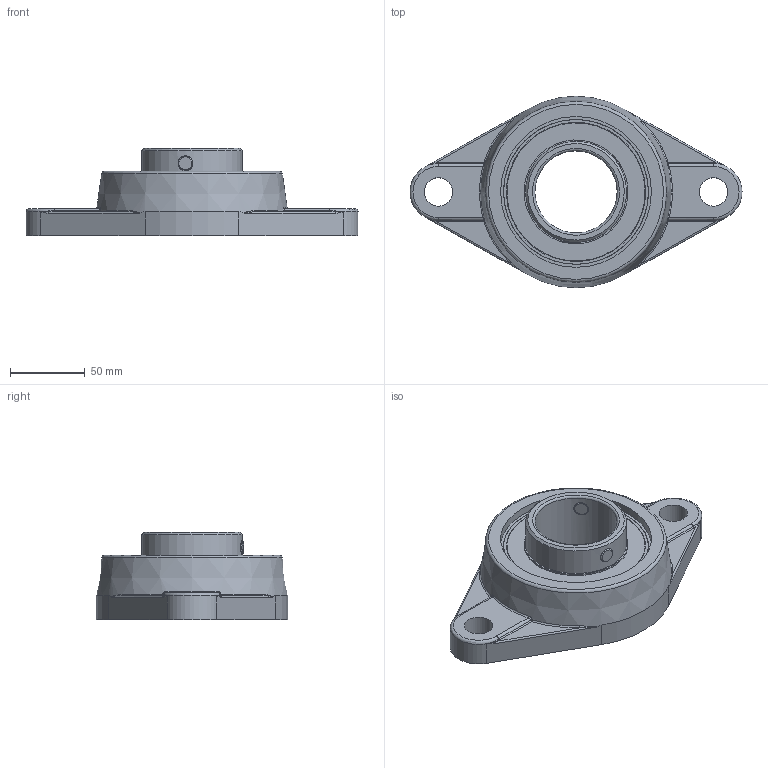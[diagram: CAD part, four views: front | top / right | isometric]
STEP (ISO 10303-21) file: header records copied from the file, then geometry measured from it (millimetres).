
FILE_DESCRIPTION(/* description */ (''),/* implementation_level */ '2;1');
FILE_NAME(/* name */ 'C:\MOJE SUBORY\03_Doplnenie 3D modelov\fmc\FMC211.stp',/* time_stamp */ '2020-12-15T08:58:02+01:00',/* author */ ('OUPIONTEKM'),/* organization */ (''),/* preprocessor_version */ 'ST-DEVELOPER v18.1',/* originating_system */ 'Autodesk Inventor 2021',/* authorisation */ '');
FILE_SCHEMA (('AUTOMOTIVE_DESIGN { 1 0 10303 214 3 1 1 }'));
Length unit declared in the file: millimetre
Products named in the file (10): FMC205; FM211; UC211; UC211-02; UC211-ball; UC211-01; UC211-cage; UC211-seal; M10X7; UC211-shield
Assembly tree (20 placements, depth 3):
  FMC205
    FM211
    UC211
      UC211-02
      UC211-ball  x8
      UC211-01
      UC211-cage  x2
      UC211-seal  x2
      M10X7  x2
      UC211-shield  x2
Bounding box: 221.96 x 128 x 58.4 mm (x, y, z)
Volume: 405032.4 mm3; surface area: 137572.9 mm2
Topology: 19 solids, 19 shells, 220 faces, 662 edges, 422 vertices
Faces by surface type: plane 77, cylinder 51, sphere 47, bspline 20, torus 17, cone 8
Full cylindrical faces by diameter (mm): 1.8 x2, 10 x4, 19 x2, 55 x1, 67.498 x6, 69.498 x2, 73.214 x2, 81.786 x2, 87.502 x2, 92.402 x2, 93.002 x4, 100.825 x1, 102.329 x1
Entity records: 7469 total; most frequent: CARTESIAN_POINT 2871, DIRECTION 953, ORIENTED_EDGE 882, EDGE_CURVE 441, AXIS2_PLACEMENT_3D 436, VERTEX_POINT 294, CIRCLE 258, EDGE_LOOP 189
